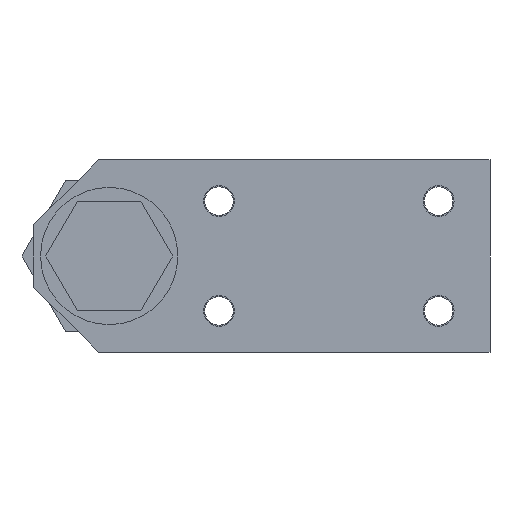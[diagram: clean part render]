
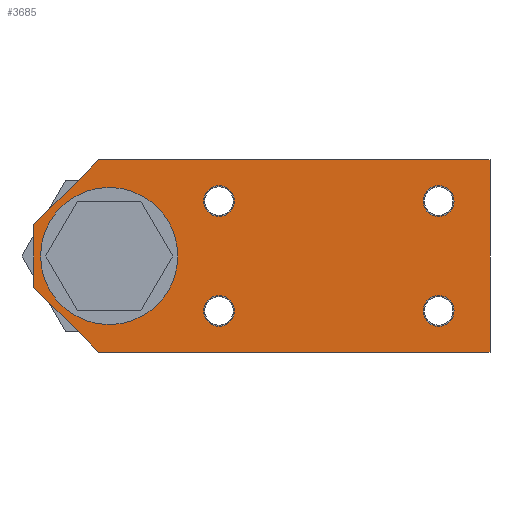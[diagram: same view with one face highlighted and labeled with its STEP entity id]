
A CAD part, left-side view. The second image highlights one B-rep face of the part: STEP entity #3685.
In plain terms, the highlighted planar face has unit normal (-1, 0, 0).
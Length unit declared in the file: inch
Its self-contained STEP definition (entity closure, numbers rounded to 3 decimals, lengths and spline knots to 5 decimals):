
#3282=DIRECTION('',(0.,0.,1.));
#3283=VECTOR('',#3282,0.56954);
#3284=CARTESIAN_POINT('',(8.39588,0.6875,-4.28477));
#3285=LINE('',#3284,#3283);
#3360=DIRECTION('',(0.,1.,0.));
#3361=VECTOR('',#3360,3.56477);
#3362=CARTESIAN_POINT('',(8.39588,-3.4675,-4.875));
#3363=LINE('',#3362,#3361);
#3364=DIRECTION('',(0.,-0.707,-0.707));
#3365=VECTOR('',#3364,0.83471);
#3366=CARTESIAN_POINT('',(8.39588,0.6875,-4.28477));
#3367=LINE('',#3366,#3365);
#3368=DIRECTION('',(0.,0.707,-0.707));
#3369=VECTOR('',#3368,0.83471);
#3370=CARTESIAN_POINT('',(8.39588,0.09727,-3.125));
#3371=LINE('',#3370,#3369);
#3372=CARTESIAN_POINT('',(8.39588,-1.,-4.5));
#3373=DIRECTION('',(1.,0.,0.));
#3374=DIRECTION('',(0.,-1.,0.));
#3375=AXIS2_PLACEMENT_3D('',#3372,#3373,#3374);
#3377=CARTESIAN_POINT('',(8.39588,-1.,-4.5));
#3378=DIRECTION('',(1.,0.,0.));
#3379=DIRECTION('',(0.,1.,0.));
#3380=AXIS2_PLACEMENT_3D('',#3377,#3378,#3379);
#3382=CARTESIAN_POINT('',(8.39588,-3.,-4.5));
#3383=DIRECTION('',(1.,0.,0.));
#3384=DIRECTION('',(0.,-1.,0.));
#3385=AXIS2_PLACEMENT_3D('',#3382,#3383,#3384);
#3387=CARTESIAN_POINT('',(8.39588,-3.,-4.5));
#3388=DIRECTION('',(1.,0.,0.));
#3389=DIRECTION('',(0.,1.,0.));
#3390=AXIS2_PLACEMENT_3D('',#3387,#3388,#3389);
#3392=CARTESIAN_POINT('',(8.39588,-3.,-3.5));
#3393=DIRECTION('',(1.,0.,0.));
#3394=DIRECTION('',(0.,-1.,0.));
#3395=AXIS2_PLACEMENT_3D('',#3392,#3393,#3394);
#3397=CARTESIAN_POINT('',(8.39588,-3.,-3.5));
#3398=DIRECTION('',(1.,0.,0.));
#3399=DIRECTION('',(0.,1.,0.));
#3400=AXIS2_PLACEMENT_3D('',#3397,#3398,#3399);
#3402=CARTESIAN_POINT('',(8.39588,-1.,-3.5));
#3403=DIRECTION('',(1.,0.,0.));
#3404=DIRECTION('',(0.,-1.,0.));
#3405=AXIS2_PLACEMENT_3D('',#3402,#3403,#3404);
#3407=CARTESIAN_POINT('',(8.39588,-1.,-3.5));
#3408=DIRECTION('',(1.,0.,0.));
#3409=DIRECTION('',(0.,1.,0.));
#3410=AXIS2_PLACEMENT_3D('',#3407,#3408,#3409);
#3412=CARTESIAN_POINT('',(8.39588,0.,-4.));
#3413=DIRECTION('',(1.,0.,0.));
#3414=DIRECTION('',(0.,-1.,0.));
#3415=AXIS2_PLACEMENT_3D('',#3412,#3413,#3414);
#3417=CARTESIAN_POINT('',(8.39588,0.,-4.));
#3418=DIRECTION('',(1.,0.,0.));
#3419=DIRECTION('',(0.,1.,0.));
#3420=AXIS2_PLACEMENT_3D('',#3417,#3418,#3419);
#3430=DIRECTION('',(0.,-1.,0.));
#3431=VECTOR('',#3430,3.56477);
#3432=CARTESIAN_POINT('',(8.39588,0.09727,-3.125));
#3433=LINE('',#3432,#3431);
#3434=DIRECTION('',(0.,0.,-1.));
#3435=VECTOR('',#3434,1.75);
#3436=CARTESIAN_POINT('',(8.39588,-3.4675,-3.125));
#3437=LINE('',#3436,#3435);
#3482=CARTESIAN_POINT('',(8.39588,0.6875,-4.28477));
#3484=VERTEX_POINT('',#3482);
#3488=CARTESIAN_POINT('',(8.39588,0.09727,-4.875));
#3489=VERTEX_POINT('',#3488);
#3494=CARTESIAN_POINT('',(8.39588,0.6875,-3.71523));
#3495=VERTEX_POINT('',#3494);
#3500=CARTESIAN_POINT('',(8.39588,-3.4675,-4.875));
#3501=VERTEX_POINT('',#3500);
#3502=CARTESIAN_POINT('',(8.39588,0.09727,-3.125));
#3503=VERTEX_POINT('',#3502);
#3504=CARTESIAN_POINT('',(8.39588,-3.4675,-3.125));
#3505=VERTEX_POINT('',#3504);
#3506=CARTESIAN_POINT('',(8.39588,-0.85938,-4.5));
#3508=VERTEX_POINT('',#3506);
#3510=CARTESIAN_POINT('',(8.39588,-1.14063,-4.5));
#3512=VERTEX_POINT('',#3510);
#3514=CARTESIAN_POINT('',(8.39588,-2.85938,-4.5));
#3516=VERTEX_POINT('',#3514);
#3518=CARTESIAN_POINT('',(8.39588,-3.14063,-4.5));
#3520=VERTEX_POINT('',#3518);
#3522=CARTESIAN_POINT('',(8.39588,-2.85938,-3.5));
#3524=VERTEX_POINT('',#3522);
#3526=CARTESIAN_POINT('',(8.39588,-3.14063,-3.5));
#3528=VERTEX_POINT('',#3526);
#3531=CARTESIAN_POINT('',(8.39588,-0.625,-4.));
#3533=VERTEX_POINT('',#3531);
#3535=CARTESIAN_POINT('',(8.39588,0.625,-4.));
#3537=VERTEX_POINT('',#3535);
#3538=CARTESIAN_POINT('',(8.39588,-0.85938,-3.5));
#3540=VERTEX_POINT('',#3538);
#3542=CARTESIAN_POINT('',(8.39588,-1.14063,-3.5));
#3544=VERTEX_POINT('',#3542);
#3639=CARTESIAN_POINT('',(8.39588,-1.59673,-4.));
#3640=DIRECTION('',(1.,0.,0.));
#3641=DIRECTION('',(0.,-1.,0.));
#3642=AXIS2_PLACEMENT_3D('',#3639,#3640,#3641);
#3643=PLANE('',#3642);
#3644=ORIENTED_EDGE('',*,*,#3553,.F.);
#3645=ORIENTED_EDGE('',*,*,#3572,.T.);
#3647=ORIENTED_EDGE('',*,*,#3646,.F.);
#3649=ORIENTED_EDGE('',*,*,#3648,.T.);
#3651=ORIENTED_EDGE('',*,*,#3650,.T.);
#3652=ORIENTED_EDGE('',*,*,#3631,.T.);
#3653=EDGE_LOOP('',(#3644,#3645,#3647,#3649,#3651,#3652));
#3654=FACE_OUTER_BOUND('',#3653,.F.);
#3656=ORIENTED_EDGE('',*,*,#3655,.F.);
#3658=ORIENTED_EDGE('',*,*,#3657,.F.);
#3659=EDGE_LOOP('',(#3656,#3658));
#3660=FACE_BOUND('',#3659,.F.);
#3662=ORIENTED_EDGE('',*,*,#3661,.F.);
#3664=ORIENTED_EDGE('',*,*,#3663,.F.);
#3665=EDGE_LOOP('',(#3662,#3664));
#3666=FACE_BOUND('',#3665,.F.);
#3668=ORIENTED_EDGE('',*,*,#3667,.F.);
#3670=ORIENTED_EDGE('',*,*,#3669,.F.);
#3671=EDGE_LOOP('',(#3668,#3670));
#3672=FACE_BOUND('',#3671,.F.);
#3674=ORIENTED_EDGE('',*,*,#3673,.F.);
#3676=ORIENTED_EDGE('',*,*,#3675,.F.);
#3677=EDGE_LOOP('',(#3674,#3676));
#3678=FACE_BOUND('',#3677,.F.);
#3680=ORIENTED_EDGE('',*,*,#3679,.F.);
#3682=ORIENTED_EDGE('',*,*,#3681,.F.);
#3683=EDGE_LOOP('',(#3680,#3682));
#3684=FACE_BOUND('',#3683,.F.);
#3376=CIRCLE('',#3375,0.14063);
#3381=CIRCLE('',#3380,0.14063);
#3386=CIRCLE('',#3385,0.14063);
#3391=CIRCLE('',#3390,0.14063);
#3396=CIRCLE('',#3395,0.14063);
#3401=CIRCLE('',#3400,0.14063);
#3406=CIRCLE('',#3405,0.14063);
#3411=CIRCLE('',#3410,0.14063);
#3416=CIRCLE('',#3415,0.625);
#3421=CIRCLE('',#3420,0.625);
#3553=EDGE_CURVE('',#3484,#3489,#3367,.T.);
#3572=EDGE_CURVE('',#3484,#3495,#3285,.T.);
#3631=EDGE_CURVE('',#3501,#3489,#3363,.T.);
#3646=EDGE_CURVE('',#3503,#3495,#3371,.T.);
#3648=EDGE_CURVE('',#3503,#3505,#3433,.T.);
#3650=EDGE_CURVE('',#3505,#3501,#3437,.T.);
#3655=EDGE_CURVE('',#3512,#3508,#3376,.T.);
#3657=EDGE_CURVE('',#3508,#3512,#3381,.T.);
#3661=EDGE_CURVE('',#3520,#3516,#3386,.T.);
#3663=EDGE_CURVE('',#3516,#3520,#3391,.T.);
#3667=EDGE_CURVE('',#3528,#3524,#3396,.T.);
#3669=EDGE_CURVE('',#3524,#3528,#3401,.T.);
#3673=EDGE_CURVE('',#3544,#3540,#3406,.T.);
#3675=EDGE_CURVE('',#3540,#3544,#3411,.T.);
#3679=EDGE_CURVE('',#3533,#3537,#3416,.T.);
#3681=EDGE_CURVE('',#3537,#3533,#3421,.T.);
#3685=ADVANCED_FACE('',(#3654,#3660,#3666,#3672,#3678,#3684),#3643,.F.);
